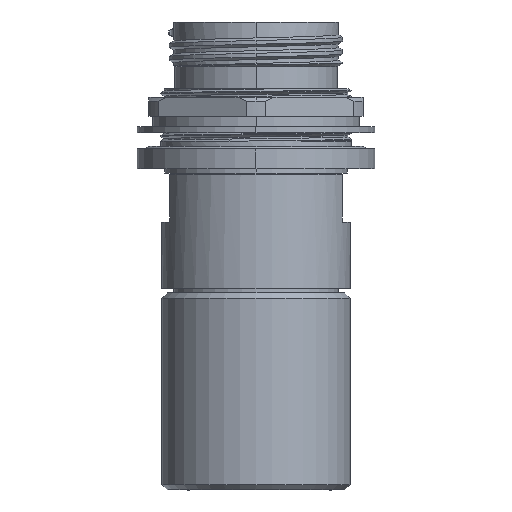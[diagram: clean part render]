
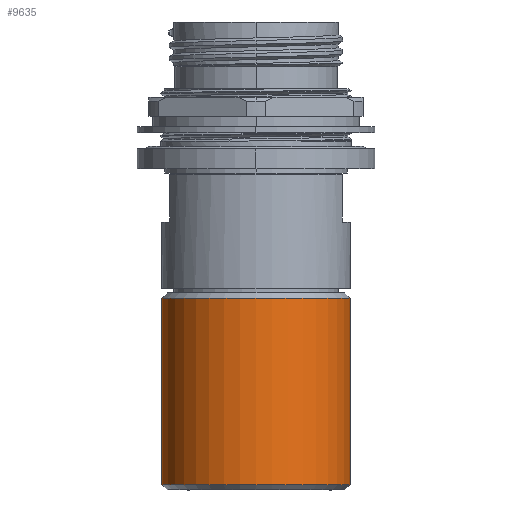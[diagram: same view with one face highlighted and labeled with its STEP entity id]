
A CAD part, left-side view. The second image highlights one B-rep face of the part: STEP entity #9635.
In plain terms, the highlighted cylindrical face has radius 18.733 mm (diameter 37.465 mm), a partial arc.
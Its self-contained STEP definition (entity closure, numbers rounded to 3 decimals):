
#14 = ORIENTED_EDGE ( 'NONE', *, *, #16297, .T. ) ;
#111 = CARTESIAN_POINT ( 'NONE',  ( 0., -18.732, -93.218 ) ) ;
#194 = CARTESIAN_POINT ( 'NONE',  ( 0., 18.732, -93.218 ) ) ;
#426 = DIRECTION ( 'NONE',  ( 0., 0., 1. ) ) ;
#1610 = CARTESIAN_POINT ( 'NONE',  ( 0., -18.732, -54.991 ) ) ;
#2574 = DIRECTION ( 'NONE',  ( 0., 1., 0. ) ) ;
#2783 = ORIENTED_EDGE ( 'NONE', *, *, #10771, .T. ) ;
#3217 = CARTESIAN_POINT ( 'NONE',  ( 0., 0., -54.991 ) ) ;
#3792 = VERTEX_POINT ( 'NONE', #10975 ) ;
#4066 = DIRECTION ( 'NONE',  ( 0., -1., 0. ) ) ;
#5043 = CARTESIAN_POINT ( 'NONE',  ( 0., 18.732, -92.202 ) ) ;
#7451 = CARTESIAN_POINT ( 'NONE',  ( 0., 0., -92.202 ) ) ;
#9388 = EDGE_CURVE ( 'NONE', #16874, #3792, #20153, .T. ) ;
#9635 = ADVANCED_FACE ( 'NONE', ( #20317 ), #12538, .T. ) ;
#9823 = DIRECTION ( 'NONE',  ( 0., 0., -1. ) ) ;
#10586 = DIRECTION ( 'NONE',  ( 0., 0., 1. ) ) ;
#10771 = EDGE_CURVE ( 'NONE', #3792, #19263, #14946, .T. ) ;
#10796 = DIRECTION ( 'NONE',  ( 0., 0., 1. ) ) ;
#10975 = CARTESIAN_POINT ( 'NONE',  ( 0., -18.732, -92.202 ) ) ;
#10987 = VECTOR ( 'NONE', #19669, 1000. ) ;
#12531 = ORIENTED_EDGE ( 'NONE', *, *, #9388, .T. ) ;
#12538 = CYLINDRICAL_SURFACE ( 'NONE', #20358, 18.732 ) ;
#13614 = AXIS2_PLACEMENT_3D ( 'NONE', #7451, #10796, #15686 ) ;
#14740 = VERTEX_POINT ( 'NONE', #14808 ) ;
#14808 = CARTESIAN_POINT ( 'NONE',  ( 0., 18.732, -54.991 ) ) ;
#14946 = LINE ( 'NONE', #111, #17593 ) ;
#15686 = DIRECTION ( 'NONE',  ( 0., 1., 0. ) ) ;
#16071 = EDGE_CURVE ( 'NONE', #16874, #14740, #21392, .T. ) ;
#16297 = EDGE_CURVE ( 'NONE', #19263, #14740, #21362, .T. ) ;
#16874 = VERTEX_POINT ( 'NONE', #5043 ) ;
#17593 = VECTOR ( 'NONE', #426, 1000. ) ;
#19029 = CARTESIAN_POINT ( 'NONE',  ( 0., 0., -93.218 ) ) ;
#19263 = VERTEX_POINT ( 'NONE', #1610 ) ;
#19642 = ORIENTED_EDGE ( 'NONE', *, *, #16071, .F. ) ;
#19669 = DIRECTION ( 'NONE',  ( 0., 0., 1. ) ) ;
#20153 = CIRCLE ( 'NONE', #13614, 18.732 ) ;
#20317 = FACE_OUTER_BOUND ( 'NONE', #21217, .T. ) ;
#20321 = AXIS2_PLACEMENT_3D ( 'NONE', #3217, #9823, #4066 ) ;
#20358 = AXIS2_PLACEMENT_3D ( 'NONE', #19029, #10586, #2574 ) ;
#21217 = EDGE_LOOP ( 'NONE', ( #19642, #12531, #2783, #14 ) ) ;
#21362 = CIRCLE ( 'NONE', #20321, 18.732 ) ;
#21392 = LINE ( 'NONE', #194, #10987 ) ;
